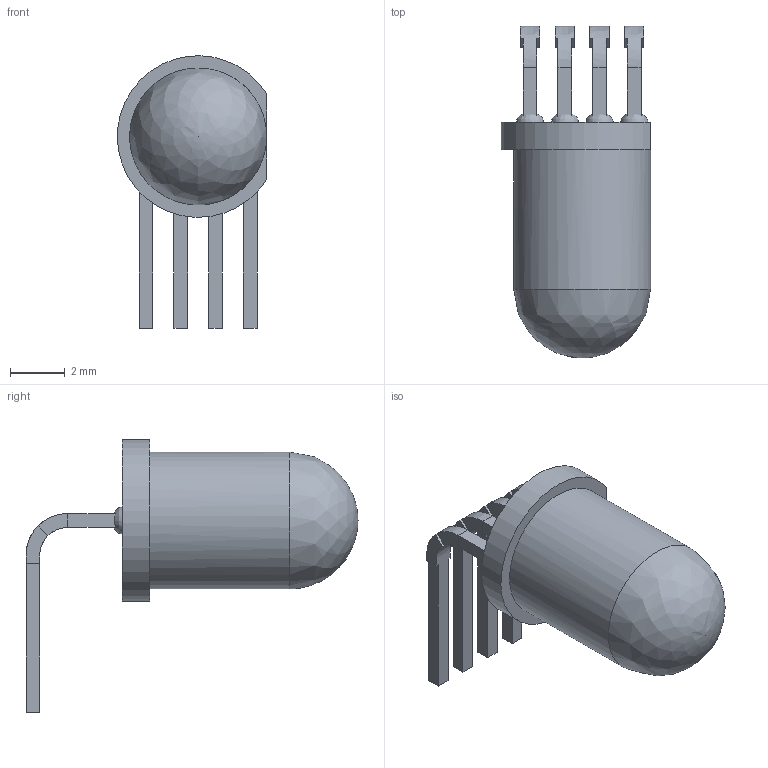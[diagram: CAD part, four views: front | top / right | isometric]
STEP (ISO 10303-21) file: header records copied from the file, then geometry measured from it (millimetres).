
FILE_DESCRIPTION(/* description */ (''),/* implementation_level */ '2;1');
FILE_NAME(/* name */ 'LEBD3B~1',/* time_stamp */ '2022-11-08T16:30:25+01:00',/* author */ (''),/* organization */ (''),/* preprocessor_version */ 'ST-DEVELOPER v16.5',/* originating_system */ '',/* authorisation */ '');
FILE_SCHEMA (('AUTOMOTIVE_DESIGN'));
Length unit declared in the file: millimetre
Products named in the file (1): Document
Bounding box: 5.45 x 12.12 x 9.95 mm (x, y, z)
Volume: 160.1 mm3; surface area: 267.5 mm2
Topology: 1 solids, 6 shells, 80 faces, 205 edges, 131 vertices
Faces by surface type: plane 48, bspline 29, cylinder 3
Full cylindrical faces by diameter (mm): 5 x1
Entity records: 4833 total; most frequent: CARTESIAN_POINT 3424, ORIENTED_EDGE 383, EDGE_CURVE 200, B_SPLINE_CURVE_WITH_KNOTS 179, VERTEX_POINT 131, EDGE_LOOP 84, ADVANCED_FACE 80, FACE_OUTER_BOUND 80
